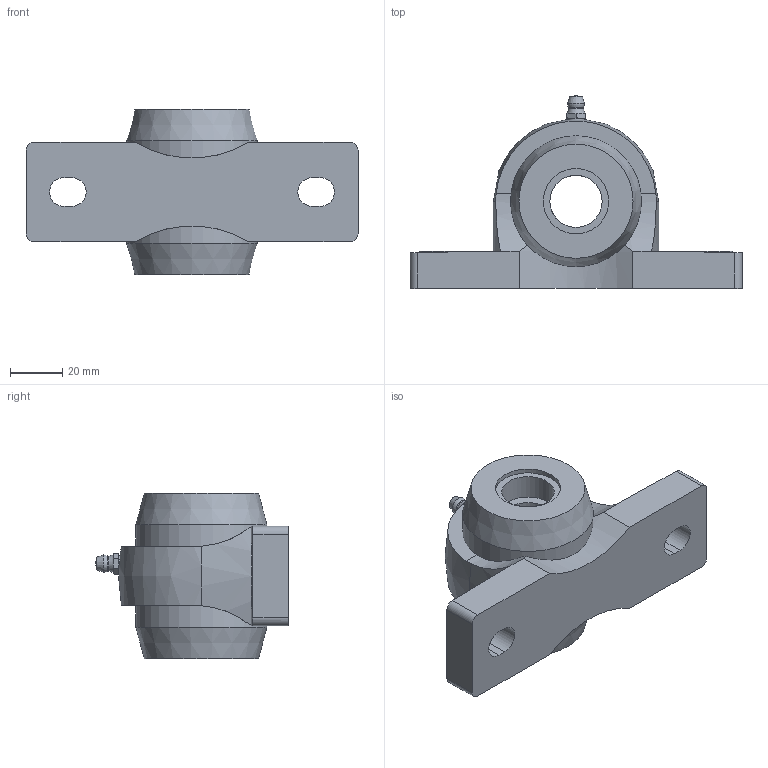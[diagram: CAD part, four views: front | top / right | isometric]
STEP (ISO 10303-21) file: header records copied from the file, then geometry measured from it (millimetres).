
FILE_DESCRIPTION(/* description */ (''),/* implementation_level */ '2;1');
FILE_NAME(/* name */ 'C:\Users\UGijyutu_200702\Desktop\77.プラスチックハウジング\MBPPL200V\MBPPL200VC\MBPPL204VC.stp',/* time_stamp */ '2023-02-10T14:32:39+09:00',/* author */ ('UGijyutu_200702'),/* organization */ (''),/* preprocessor_version */ 'ST-DEVELOPER v18',/* originating_system */ 'Autodesk Inventor 2020',/* authorisation */ '');
FILE_SCHEMA (('AUTOMOTIVE_DESIGN { 1 0 10303 214 3 1 1 }'));
Length unit declared in the file: millimetre
Products named in the file (5): MBPPL204VC; PPL204; MB4 V; 1/4-28UNF-2A; 204C
Assembly tree (5 placements, depth 2):
  MBPPL204VC
    PPL204
    MB4 V
    1/4-28UNF-2A
    204C  x2
Bounding box: 127 x 73.8 x 63.3 mm (x, y, z)
Volume: 135238.5 mm3; surface area: 51097 mm2
Topology: 5 solids, 5 shells, 131 faces, 329 edges, 223 vertices
Faces by surface type: plane 64, cylinder 41, cone 19, sphere 4, torus 2, bspline 1
Full cylindrical faces by diameter (mm): 3.2 x1, 5 x2, 5.359 x1, 6.35 x1, 20 x3, 25 x2, 29 x1, 35.6 x2, 46.5 x2, 49.8 x2, 50.1 x2
Entity records: 4279 total; most frequent: CARTESIAN_POINT 1097, DIRECTION 617, ORIENTED_EDGE 606, EDGE_CURVE 303, AXIS2_PLACEMENT_3D 244, VERTEX_POINT 205, EDGE_LOOP 144, LINE 129
